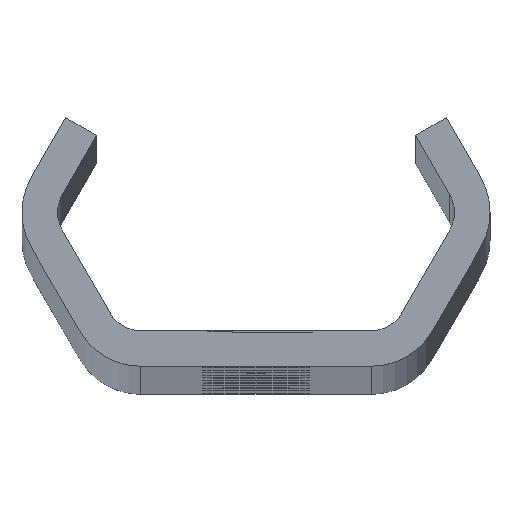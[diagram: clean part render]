
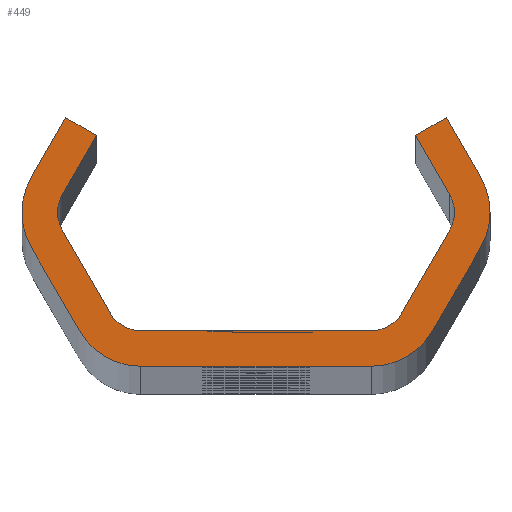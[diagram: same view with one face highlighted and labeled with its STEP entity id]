
A CAD part, top view. The second image highlights one B-rep face of the part: STEP entity #449.
In plain terms, the highlighted planar face has unit normal (0, 0, 1).
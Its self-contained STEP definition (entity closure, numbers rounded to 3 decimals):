
#449=ADVANCED_FACE('NONE',(#1223),#1224,.F.);
#1223=FACE_OUTER_BOUND('',#3828,.T.);
#1224=PLANE('',#3829);
#3828=EDGE_LOOP('',(#7834,#7835,#7836,#7837,#7838,#7839,#7840,#7841,#7842,#7843,#7844,#7845,#7846,#7847,#7848,#7849,#7850,#7851,#7852,#7853,#7854,#7855,#7856,#7857,#7858,#7859,#7860,#7861));
#3829=AXIS2_PLACEMENT_3D('',#7862,#7863,#7864);
#7834=ORIENTED_EDGE('',*,*,#10494,.F.);
#7835=ORIENTED_EDGE('',*,*,#10495,.T.);
#7836=ORIENTED_EDGE('',*,*,#10260,.T.);
#7837=ORIENTED_EDGE('',*,*,#10496,.T.);
#7838=ORIENTED_EDGE('',*,*,#10453,.T.);
#7839=ORIENTED_EDGE('',*,*,#10497,.T.);
#7840=ORIENTED_EDGE('',*,*,#10047,.T.);
#7841=ORIENTED_EDGE('',*,*,#10456,.T.);
#7842=ORIENTED_EDGE('',*,*,#10462,.T.);
#7843=ORIENTED_EDGE('',*,*,#10466,.T.);
#7844=ORIENTED_EDGE('',*,*,#10498,.T.);
#7845=ORIENTED_EDGE('',*,*,#10234,.T.);
#7846=ORIENTED_EDGE('',*,*,#10468,.T.);
#7847=ORIENTED_EDGE('',*,*,#10499,.T.);
#7848=ORIENTED_EDGE('',*,*,#10472,.T.);
#7849=ORIENTED_EDGE('',*,*,#10500,.T.);
#7850=ORIENTED_EDGE('',*,*,#10241,.T.);
#7851=ORIENTED_EDGE('',*,*,#10501,.T.);
#7852=ORIENTED_EDGE('',*,*,#10052,.T.);
#7853=ORIENTED_EDGE('',*,*,#10244,.T.);
#7854=ORIENTED_EDGE('',*,*,#10250,.T.);
#7855=ORIENTED_EDGE('',*,*,#10253,.T.);
#7856=ORIENTED_EDGE('',*,*,#10231,.T.);
#7857=ORIENTED_EDGE('',*,*,#10502,.T.);
#7858=ORIENTED_EDGE('',*,*,#10255,.T.);
#7859=ORIENTED_EDGE('',*,*,#10503,.T.);
#7860=ORIENTED_EDGE('',*,*,#10263,.T.);
#7861=ORIENTED_EDGE('',*,*,#10504,.T.);
#7862=CARTESIAN_POINT('',(0.0,0.0,1360.0));
#7863=DIRECTION('',(0.0,0.0,-1.0));
#7864=DIRECTION('',(0.0,-1.0,0.0));
#10047=EDGE_CURVE('NONE',#11205,#11209,#11211,.T.);
#10052=EDGE_CURVE('NONE',#11214,#11218,#11220,.T.);
#10231=EDGE_CURVE('NONE',#11542,#11540,#11543,.T.);
#10234=EDGE_CURVE('NONE',#11546,#11547,#11548,.T.);
#10241=EDGE_CURVE('NONE',#11560,#11558,#11561,.T.);
#10244=EDGE_CURVE('NONE',#11218,#11564,#11565,.T.);
#10250=EDGE_CURVE('NONE',#11564,#11572,#11574,.T.);
#10253=EDGE_CURVE('NONE',#11572,#11542,#11577,.T.);
#10255=EDGE_CURVE('NONE',#11579,#11580,#11581,.T.);
#10260=EDGE_CURVE('NONE',#11588,#11589,#11590,.T.);
#10263=EDGE_CURVE('NONE',#11595,#11593,#11596,.T.);
#10453=EDGE_CURVE('NONE',#11948,#11946,#11949,.T.);
#10456=EDGE_CURVE('NONE',#11209,#11952,#11953,.T.);
#10462=EDGE_CURVE('NONE',#11952,#11960,#11962,.T.);
#10466=EDGE_CURVE('NONE',#11960,#11966,#11968,.T.);
#10468=EDGE_CURVE('NONE',#11547,#11970,#11971,.T.);
#10472=EDGE_CURVE('NONE',#11976,#11977,#11978,.T.);
#10494=EDGE_CURVE('NONE',#12002,#12003,#12004,.T.);
#10495=EDGE_CURVE('NONE',#12002,#11588,#12005,.T.);
#10496=EDGE_CURVE('NONE',#11589,#11948,#12006,.T.);
#10497=EDGE_CURVE('NONE',#11946,#11205,#12007,.T.);
#10498=EDGE_CURVE('NONE',#11966,#11546,#12008,.T.);
#10499=EDGE_CURVE('NONE',#11970,#11976,#12009,.T.);
#10500=EDGE_CURVE('NONE',#11977,#11560,#12010,.T.);
#10501=EDGE_CURVE('NONE',#11558,#11214,#12011,.T.);
#10502=EDGE_CURVE('NONE',#11540,#11579,#12012,.T.);
#10503=EDGE_CURVE('NONE',#11580,#11595,#12013,.T.);
#10504=EDGE_CURVE('NONE',#11593,#12003,#12014,.T.);
#11205=VERTEX_POINT('',#12923);
#11209=VERTEX_POINT('NONE',#12928);
#11211=CIRCLE('',#12931,3.0);
#11214=VERTEX_POINT('',#12934);
#11218=VERTEX_POINT('NONE',#12939);
#11220=CIRCLE('',#12942,6.0);
#11540=VERTEX_POINT('NONE',#14870);
#11542=VERTEX_POINT('NONE',#14873);
#11543=CIRCLE('',#14874,3.0);
#11546=VERTEX_POINT('NONE',#14878);
#11547=VERTEX_POINT('NONE',#14879);
#11548=CIRCLE('',#14880,6.0);
#11558=VERTEX_POINT('NONE',#14893);
#11560=VERTEX_POINT('NONE',#14896);
#11561=LINE('',#14897,#14898);
#11564=VERTEX_POINT('NONE',#14902);
#11565=LINE('',#14903,#14904);
#11572=VERTEX_POINT('NONE',#14914);
#11574=LINE('',#14917,#14918);
#11577=LINE('',#14922,#14923);
#11579=VERTEX_POINT('NONE',#14925);
#11580=VERTEX_POINT('NONE',#14926);
#11581=LINE('',#14927,#14928);
#11588=VERTEX_POINT('NONE',#14938);
#11589=VERTEX_POINT('NONE',#14939);
#11590=LINE('',#14940,#14941);
#11593=VERTEX_POINT('NONE',#14945);
#11595=VERTEX_POINT('NONE',#14948);
#11596=LINE('',#14949,#14950);
#11946=VERTEX_POINT('NONE',#16252);
#11948=VERTEX_POINT('NONE',#16255);
#11949=LINE('',#16256,#16257);
#11952=VERTEX_POINT('NONE',#16261);
#11953=LINE('',#16262,#16263);
#11960=VERTEX_POINT('NONE',#16273);
#11962=LINE('',#16276,#16277);
#11966=VERTEX_POINT('NONE',#16282);
#11968=LINE('',#16285,#16286);
#11970=VERTEX_POINT('NONE',#16288);
#11971=LINE('',#16289,#16290);
#11976=VERTEX_POINT('NONE',#16297);
#11977=VERTEX_POINT('NONE',#16298);
#11978=LINE('',#16299,#16300);
#12002=VERTEX_POINT('NONE',#16327);
#12003=VERTEX_POINT('NONE',#16328);
#12004=LINE('',#16329,#16330);
#12005=LINE('',#16331,#16332);
#12006=CIRCLE('',#16333,3.0);
#12007=CIRCLE('',#16334,3.0);
#12008=CIRCLE('',#16335,6.0);
#12009=CIRCLE('',#16336,6.0);
#12010=CIRCLE('',#16337,6.0);
#12011=CIRCLE('',#16338,6.0);
#12012=CIRCLE('',#16339,3.0);
#12013=CIRCLE('',#16340,3.0);
#12014=LINE('',#16341,#16342);
#12923=CARTESIAN_POINT('',(-16.764,0.,1360.0));
#12928=CARTESIAN_POINT('',(-16.362,1.5,1360.0));
#12931=AXIS2_PLACEMENT_3D('',#19369,#19370,#19371);
#12934=CARTESIAN_POINT('',(19.764,0.,1360.0));
#12939=CARTESIAN_POINT('',(18.96,3.,1360.0));
#12942=AXIS2_PLACEMENT_3D('',#19377,#19378,#19379);
#14870=CARTESIAN_POINT('',(16.764,0.,1360.0));
#14873=CARTESIAN_POINT('',(16.362,1.5,1360.0));
#14874=AXIS2_PLACEMENT_3D('',#19556,#19557,#19558);
#14878=CARTESIAN_POINT('',(-19.764,0.,1360.0));
#14879=CARTESIAN_POINT('',(-18.96,-3.,1360.0));
#14880=AXIS2_PLACEMENT_3D('',#19560,#19561,#19562);
#14893=CARTESIAN_POINT('',(18.96,-3.,1360.0));
#14896=CARTESIAN_POINT('',(14.919,-10.,1360.0));
#14897=CARTESIAN_POINT('',(20.692,0.,1360.0));
#14898=VECTOR('',#19570,1000.0);
#14902=CARTESIAN_POINT('',(16.074,8.,1360.0));
#14903=CARTESIAN_POINT('',(16.074,8.,1360.0));
#14904=VECTOR('',#19572,1000.0);
#14914=CARTESIAN_POINT('',(13.475,6.5,1360.0));
#14917=CARTESIAN_POINT('',(13.475,6.5,1360.0));
#14918=VECTOR('',#19577,1000.0);
#14922=CARTESIAN_POINT('',(17.228,0.,1360.0));
#14923=VECTOR('',#19579,1000.0);
#14925=CARTESIAN_POINT('',(16.362,-1.5,1360.0));
#14926=CARTESIAN_POINT('',(12.321,-8.5,1360.0));
#14927=CARTESIAN_POINT('',(11.455,-10.0,1360.0));
#14928=VECTOR('',#19580,1000.0);
#14938=CARTESIAN_POINT('',(-4.063,-10.0,1360.0));
#14939=CARTESIAN_POINT('',(-9.723,-10.0,1360.0));
#14940=CARTESIAN_POINT('',(-11.455,-10.0,1360.0));
#14941=VECTOR('',#19584,1000.0);
#14945=CARTESIAN_POINT('',(-3.458,-10.0,1360.0));
#14948=CARTESIAN_POINT('',(9.723,-10.0,1360.0));
#14949=CARTESIAN_POINT('',(-11.455,-10.0,1360.0));
#14950=VECTOR('',#19587,1000.0);
#16252=CARTESIAN_POINT('',(-16.362,-1.5,1360.0));
#16255=CARTESIAN_POINT('',(-12.321,-8.5,1360.0));
#16256=CARTESIAN_POINT('',(-17.228,0.,1360.0));
#16257=VECTOR('',#19791,1000.0);
#16261=CARTESIAN_POINT('',(-13.475,6.5,1360.0));
#16262=CARTESIAN_POINT('',(-13.475,6.5,1360.0));
#16263=VECTOR('',#19793,1000.0);
#16273=CARTESIAN_POINT('',(-16.074,8.,1360.0));
#16276=CARTESIAN_POINT('',(-13.475,6.5,1360.0));
#16277=VECTOR('',#19798,1000.0);
#16282=CARTESIAN_POINT('',(-18.96,3.,1360.0));
#16285=CARTESIAN_POINT('',(-16.074,8.,1360.0));
#16286=VECTOR('',#19801,1000.0);
#16288=CARTESIAN_POINT('',(-14.919,-10.,1360.0));
#16289=CARTESIAN_POINT('',(-20.692,0.,1360.0));
#16290=VECTOR('',#19802,1000.0);
#16297=CARTESIAN_POINT('',(-9.723,-13.0,1360.0));
#16298=CARTESIAN_POINT('',(9.723,-13.0,1360.0));
#16299=CARTESIAN_POINT('',(-13.187,-13.0,1360.0));
#16300=VECTOR('',#19805,1000.0);
#16327=CARTESIAN_POINT('',(-4.063,-10.1,1360.0));
#16328=CARTESIAN_POINT('',(-3.458,-10.1,1360.0));
#16329=CARTESIAN_POINT('',(0.0,-10.1,1360.0));
#16330=VECTOR('',#19860,1000.0);
#16331=CARTESIAN_POINT('',(-4.063,0.,1360.0));
#16332=VECTOR('',#19861,1000.0);
#16333=AXIS2_PLACEMENT_3D('',#19862,#19863,#19864);
#16334=AXIS2_PLACEMENT_3D('',#19865,#19866,#19867);
#16335=AXIS2_PLACEMENT_3D('',#19868,#19869,#19870);
#16336=AXIS2_PLACEMENT_3D('',#19871,#19872,#19873);
#16337=AXIS2_PLACEMENT_3D('',#19874,#19875,#19876);
#16338=AXIS2_PLACEMENT_3D('',#19877,#19878,#19879);
#16339=AXIS2_PLACEMENT_3D('',#19880,#19881,#19882);
#16340=AXIS2_PLACEMENT_3D('',#19883,#19884,#19885);
#16341=CARTESIAN_POINT('',(-3.458,0.,1360.0));
#16342=VECTOR('',#19886,1000.0);
#19369=CARTESIAN_POINT('',(-13.764,0.,1360.0));
#19370=DIRECTION('',(0.0,0.0,-1.0));
#19371=DIRECTION('',(-1.0,0.0,0.0));
#19377=CARTESIAN_POINT('',(13.764,0.,1360.0));
#19378=DIRECTION('',(0.0,0.0,1.0));
#19379=DIRECTION('',(-1.0,0.0,0.0));
#19556=CARTESIAN_POINT('',(13.764,0.,1360.0));
#19557=DIRECTION('',(0.0,0.0,-1.0));
#19558=DIRECTION('',(-1.0,0.0,0.0));
#19560=CARTESIAN_POINT('',(-13.764,0.,1360.0));
#19561=DIRECTION('',(0.0,0.0,1.0));
#19562=DIRECTION('',(-1.0,0.0,0.0));
#19570=DIRECTION('',(0.5,0.866,-0.0));
#19572=DIRECTION('',(-0.5,0.866,-0.0));
#19577=DIRECTION('',(-0.866,-0.5,-0.0));
#19579=DIRECTION('',(0.5,-0.866,-0.0));
#19580=DIRECTION('',(-0.5,-0.866,-0.0));
#19584=DIRECTION('',(-1.0,0.,-0.0));
#19587=DIRECTION('',(-1.0,0.,-0.0));
#19791=DIRECTION('',(-0.5,0.866,-0.0));
#19793=DIRECTION('',(0.5,0.866,-0.0));
#19798=DIRECTION('',(-0.866,0.5,0.0));
#19801=DIRECTION('',(-0.5,-0.866,0.0));
#19802=DIRECTION('',(0.5,-0.866,0.0));
#19805=DIRECTION('',(1.0,0.0,0.0));
#19860=DIRECTION('',(1.0,0.0,0.0));
#19861=DIRECTION('',(0.,1.0,0.0));
#19862=CARTESIAN_POINT('',(-9.723,-7.0,1360.0));
#19863=DIRECTION('',(0.0,0.0,-1.0));
#19864=DIRECTION('',(-1.0,0.0,0.0));
#19865=CARTESIAN_POINT('',(-13.764,0.,1360.0));
#19866=DIRECTION('',(0.0,0.0,-1.0));
#19867=DIRECTION('',(-1.0,0.0,0.0));
#19868=CARTESIAN_POINT('',(-13.764,0.,1360.0));
#19869=DIRECTION('',(0.0,0.0,1.0));
#19870=DIRECTION('',(-1.0,0.0,0.0));
#19871=CARTESIAN_POINT('',(-9.723,-7.0,1360.0));
#19872=DIRECTION('',(0.0,0.0,1.0));
#19873=DIRECTION('',(-1.0,0.0,0.0));
#19874=CARTESIAN_POINT('',(9.723,-7.0,1360.0));
#19875=DIRECTION('',(0.0,0.0,1.0));
#19876=DIRECTION('',(-1.0,0.,0.0));
#19877=CARTESIAN_POINT('',(13.764,0.,1360.0));
#19878=DIRECTION('',(0.0,0.0,1.0));
#19879=DIRECTION('',(-1.0,0.0,0.0));
#19880=CARTESIAN_POINT('',(13.764,0.,1360.0));
#19881=DIRECTION('',(0.0,0.0,-1.0));
#19882=DIRECTION('',(-1.0,0.0,0.0));
#19883=CARTESIAN_POINT('',(9.723,-7.0,1360.0));
#19884=DIRECTION('',(0.0,0.0,-1.0));
#19885=DIRECTION('',(-1.0,0.0,0.0));
#19886=DIRECTION('',(0.,-1.0,0.0));
